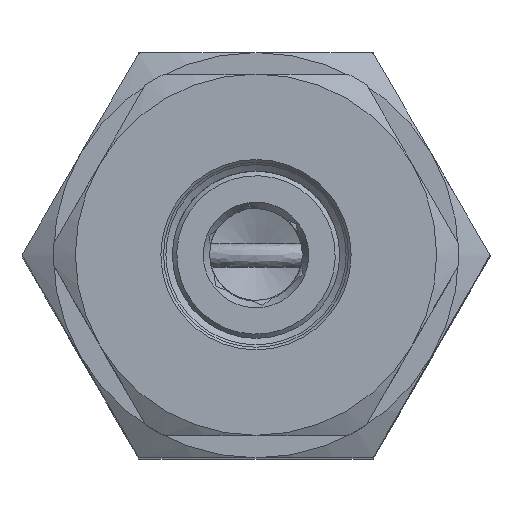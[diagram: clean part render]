
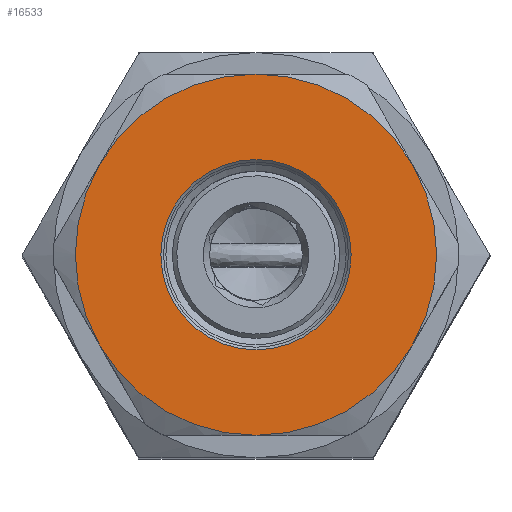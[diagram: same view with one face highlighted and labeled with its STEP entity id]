
A CAD part, top view. The second image highlights one B-rep face of the part: STEP entity #16533.
In plain terms, the highlighted planar face has unit normal (0, 0, 1) as drawn and (-1, 0, 0) by its records, which use the part's own axes.
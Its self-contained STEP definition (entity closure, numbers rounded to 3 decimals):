
#677 = AXIS2_PLACEMENT_3D ( 'NONE', #1637, #8041, #18452 ) ;
#953 = CARTESIAN_POINT ( 'NONE',  ( 0., 0., -20.5 ) ) ;
#1247 = CARTESIAN_POINT ( 'NONE',  ( 0., 0., 10.8 ) ) ;
#1268 = VERTEX_POINT ( 'NONE', #16112 ) ;
#1437 = EDGE_CURVE ( 'NONE', #1635, #1268, #3075, .T. ) ;
#1570 = EDGE_CURVE ( 'NONE', #13532, #12313, #18854, .T. ) ;
#1635 = VERTEX_POINT ( 'NONE', #5347 ) ;
#1637 = CARTESIAN_POINT ( 'NONE',  ( 0., 0., 0. ) ) ;
#1819 = AXIS2_PLACEMENT_3D ( 'NONE', #16708, #18607, #8508 ) ;
#2176 = AXIS2_PLACEMENT_3D ( 'NONE', #13796, #15595, #7184 ) ;
#2381 = AXIS2_PLACEMENT_3D ( 'NONE', #21385, #13296, #16461 ) ;
#2523 = CIRCLE ( 'NONE', #1819, 20.5 ) ;
#2640 = DIRECTION ( 'NONE',  ( 0., 0., 1. ) ) ;
#2859 = DIRECTION ( 'NONE',  ( -1., 0., 0. ) ) ;
#3075 = CIRCLE ( 'NONE', #4886, 20.5 ) ;
#3438 = CARTESIAN_POINT ( 'NONE',  ( 0., 17.754, -10.25 ) ) ;
#3586 = CIRCLE ( 'NONE', #7531, 20.5 ) ;
#3655 = AXIS2_PLACEMENT_3D ( 'NONE', #5509, #7294, #4034 ) ;
#3708 = VERTEX_POINT ( 'NONE', #3438 ) ;
#4034 = DIRECTION ( 'NONE',  ( 0., 0., 1. ) ) ;
#4886 = AXIS2_PLACEMENT_3D ( 'NONE', #16282, #11232, #7755 ) ;
#5347 = CARTESIAN_POINT ( 'NONE',  ( 0., -17.754, 10.25 ) ) ;
#5509 = CARTESIAN_POINT ( 'NONE',  ( 0., 0., 0. ) ) ;
#6108 = ORIENTED_EDGE ( 'NONE', *, *, #7471, .T. ) ;
#7184 = DIRECTION ( 'NONE',  ( 0., 0., 1. ) ) ;
#7294 = DIRECTION ( 'NONE',  ( 1., 0., 0. ) ) ;
#7471 = EDGE_CURVE ( 'NONE', #1268, #14493, #3586, .T. ) ;
#7531 = AXIS2_PLACEMENT_3D ( 'NONE', #9800, #2859, #2640 ) ;
#7755 = DIRECTION ( 'NONE',  ( 0., 0., 1. ) ) ;
#8041 = DIRECTION ( 'NONE',  ( -1., 0., 0. ) ) ;
#8113 = EDGE_LOOP ( 'NONE', ( #16636 ) ) ;
#8243 = PLANE ( 'NONE',  #677 ) ;
#8326 = CIRCLE ( 'NONE', #12605, 20.5 ) ;
#8418 = EDGE_CURVE ( 'NONE', #3708, #13532, #2523, .T. ) ;
#8508 = DIRECTION ( 'NONE',  ( 0., 0., 1. ) ) ;
#8650 = ORIENTED_EDGE ( 'NONE', *, *, #1570, .T. ) ;
#8798 = EDGE_LOOP ( 'NONE', ( #6108, #17547, #21001, #8650, #19487, #14935 ) ) ;
#9800 = CARTESIAN_POINT ( 'NONE',  ( 0., 0., 0. ) ) ;
#9852 = CARTESIAN_POINT ( 'NONE',  ( 0., 17.754, 10.25 ) ) ;
#10143 = FACE_BOUND ( 'NONE', #8113, .T. ) ;
#10238 = EDGE_CURVE ( 'NONE', #14493, #3708, #8326, .T. ) ;
#11232 = DIRECTION ( 'NONE',  ( -1., 0., 0. ) ) ;
#11340 = EDGE_CURVE ( 'NONE', #21866, #21866, #21536, .T. ) ;
#11780 = DIRECTION ( 'NONE',  ( -1., 0., 0. ) ) ;
#12181 = CIRCLE ( 'NONE', #2176, 20.5 ) ;
#12313 = VERTEX_POINT ( 'NONE', #17864 ) ;
#12605 = AXIS2_PLACEMENT_3D ( 'NONE', #17300, #11780, #18978 ) ;
#13296 = DIRECTION ( 'NONE',  ( -1., 0., 0. ) ) ;
#13532 = VERTEX_POINT ( 'NONE', #953 ) ;
#13796 = CARTESIAN_POINT ( 'NONE',  ( 0., 0., 0. ) ) ;
#14493 = VERTEX_POINT ( 'NONE', #9852 ) ;
#14935 = ORIENTED_EDGE ( 'NONE', *, *, #1437, .T. ) ;
#15595 = DIRECTION ( 'NONE',  ( -1., 0., 0. ) ) ;
#16112 = CARTESIAN_POINT ( 'NONE',  ( 0., 0., 20.5 ) ) ;
#16282 = CARTESIAN_POINT ( 'NONE',  ( 0., 0., 0. ) ) ;
#16461 = DIRECTION ( 'NONE',  ( 0., 0., 1. ) ) ;
#16533 = ADVANCED_FACE ( 'NONE', ( #10143, #16989 ), #8243, .T. ) ;
#16636 = ORIENTED_EDGE ( 'NONE', *, *, #11340, .T. ) ;
#16708 = CARTESIAN_POINT ( 'NONE',  ( 0., 0., 0. ) ) ;
#16989 = FACE_OUTER_BOUND ( 'NONE', #8798, .T. ) ;
#17300 = CARTESIAN_POINT ( 'NONE',  ( 0., 0., 0. ) ) ;
#17547 = ORIENTED_EDGE ( 'NONE', *, *, #10238, .T. ) ;
#17864 = CARTESIAN_POINT ( 'NONE',  ( 0., -17.754, -10.25 ) ) ;
#18423 = EDGE_CURVE ( 'NONE', #12313, #1635, #12181, .T. ) ;
#18452 = DIRECTION ( 'NONE',  ( 0., 0., 1. ) ) ;
#18607 = DIRECTION ( 'NONE',  ( -1., 0., 0. ) ) ;
#18854 = CIRCLE ( 'NONE', #2381, 20.5 ) ;
#18978 = DIRECTION ( 'NONE',  ( 0., 0., 1. ) ) ;
#19487 = ORIENTED_EDGE ( 'NONE', *, *, #18423, .T. ) ;
#21001 = ORIENTED_EDGE ( 'NONE', *, *, #8418, .T. ) ;
#21385 = CARTESIAN_POINT ( 'NONE',  ( 0., 0., 0. ) ) ;
#21536 = CIRCLE ( 'NONE', #3655, 10.8 ) ;
#21866 = VERTEX_POINT ( 'NONE', #1247 ) ;
